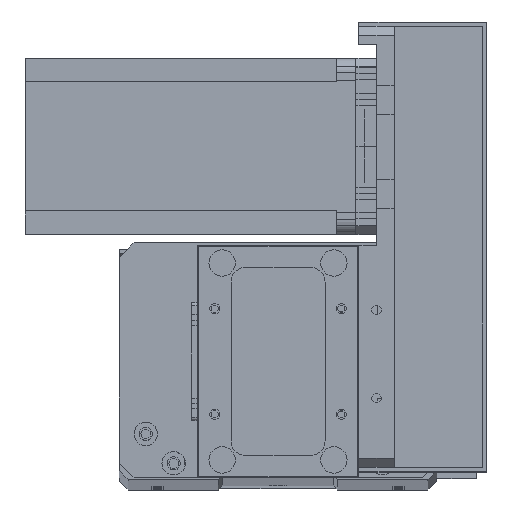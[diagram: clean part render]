
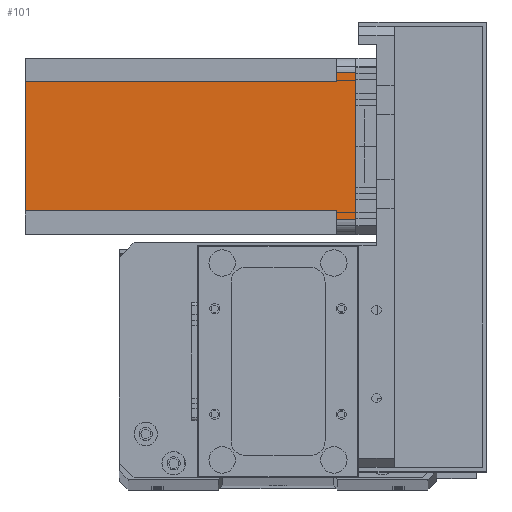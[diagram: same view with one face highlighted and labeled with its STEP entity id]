
A CAD part, top view. The second image highlights one B-rep face of the part: STEP entity #101.
In plain terms, the highlighted planar face has unit normal (0, 0, 1) as drawn and (0, 1, 0) by its records, which use the part's own axes.
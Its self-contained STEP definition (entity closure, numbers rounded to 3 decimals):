
#101 = ADVANCED_FACE ( 'NONE', ( #16644 ), #8723, .T. ) ;
#257 = VERTEX_POINT ( 'NONE', #24468 ) ;
#293 = ORIENTED_EDGE ( 'NONE', *, *, #4188, .F. ) ;
#918 = VECTOR ( 'NONE', #24383, 1000. ) ;
#1656 = CARTESIAN_POINT ( 'NONE',  ( 0., 60., -112.5 ) ) ;
#3524 = EDGE_CURVE ( 'NONE', #5799, #23170, #32054, .T. ) ;
#3570 = VERTEX_POINT ( 'NONE', #16409 ) ;
#3674 = DIRECTION ( 'NONE',  ( 1., 0., 0. ) ) ;
#4188 = EDGE_CURVE ( 'NONE', #3570, #23170, #16889, .T. ) ;
#4475 = CARTESIAN_POINT ( 'NONE',  ( 8., 60., -6.5 ) ) ;
#5799 = VERTEX_POINT ( 'NONE', #8125 ) ;
#5938 = DIRECTION ( 'NONE',  ( -1., 0., 0. ) ) ;
#5941 = EDGE_CURVE ( 'NONE', #23456, #24571, #6070, .T. ) ;
#6070 = LINE ( 'NONE', #29478, #918 ) ;
#7852 = DIRECTION ( 'NONE',  ( 0., 0., 1. ) ) ;
#8125 = CARTESIAN_POINT ( 'NONE',  ( 52., 60., -112.5 ) ) ;
#8376 = CARTESIAN_POINT ( 'NONE',  ( 5., 60., -112.5 ) ) ;
#8390 = EDGE_CURVE ( 'NONE', #23456, #30242, #18030, .T. ) ;
#8723 = PLANE ( 'NONE',  #14846 ) ;
#8841 = VECTOR ( 'NONE', #3674, 1000. ) ;
#9672 = ORIENTED_EDGE ( 'NONE', *, *, #3524, .T. ) ;
#11416 = EDGE_CURVE ( 'NONE', #32842, #30242, #31064, .T. ) ;
#12344 = ORIENTED_EDGE ( 'NONE', *, *, #8390, .F. ) ;
#12718 = CARTESIAN_POINT ( 'NONE',  ( 8., 60., -112.5 ) ) ;
#12740 = ORIENTED_EDGE ( 'NONE', *, *, #11416, .T. ) ;
#13215 = LINE ( 'NONE', #4475, #26756 ) ;
#13791 = CARTESIAN_POINT ( 'NONE',  ( 52., 60., -6.5 ) ) ;
#14783 = EDGE_CURVE ( 'NONE', #5799, #257, #20982, .T. ) ;
#14846 = AXIS2_PLACEMENT_3D ( 'NONE', #1656, #25345, #31800 ) ;
#15022 = VECTOR ( 'NONE', #7852, 1000. ) ;
#15320 = VECTOR ( 'NONE', #16269, 1000. ) ;
#15547 = ORIENTED_EDGE ( 'NONE', *, *, #25662, .T. ) ;
#15646 = LINE ( 'NONE', #13791, #8841 ) ;
#15665 = VECTOR ( 'NONE', #5938, 1000. ) ;
#16269 = DIRECTION ( 'NONE',  ( 0., 0., -1. ) ) ;
#16409 = CARTESIAN_POINT ( 'NONE',  ( 8., 60., -6.5 ) ) ;
#16644 = FACE_OUTER_BOUND ( 'NONE', #30695, .T. ) ;
#16889 = LINE ( 'NONE', #21267, #15320 ) ;
#18030 = LINE ( 'NONE', #23747, #15665 ) ;
#18127 = ORIENTED_EDGE ( 'NONE', *, *, #5941, .T. ) ;
#18306 = VECTOR ( 'NONE', #23624, 1000. ) ;
#19012 = CARTESIAN_POINT ( 'NONE',  ( 5., 60., -6.5 ) ) ;
#19784 = CARTESIAN_POINT ( 'NONE',  ( 55., 60., -6.5 ) ) ;
#20395 = CARTESIAN_POINT ( 'NONE',  ( 55., 60., 0. ) ) ;
#20982 = LINE ( 'NONE', #23122, #15022 ) ;
#21267 = CARTESIAN_POINT ( 'NONE',  ( 8., 60., -112.5 ) ) ;
#21589 = CARTESIAN_POINT ( 'NONE',  ( 5., 60., 0. ) ) ;
#21617 = ORIENTED_EDGE ( 'NONE', *, *, #24322, .F. ) ;
#22286 = DIRECTION ( 'NONE',  ( -1., 0., 0. ) ) ;
#23122 = CARTESIAN_POINT ( 'NONE',  ( 52., 60., -112.5 ) ) ;
#23170 = VERTEX_POINT ( 'NONE', #12718 ) ;
#23456 = VERTEX_POINT ( 'NONE', #20395 ) ;
#23624 = DIRECTION ( 'NONE',  ( 0., 0., 1. ) ) ;
#23747 = CARTESIAN_POINT ( 'NONE',  ( 0., 60., 0. ) ) ;
#24322 = EDGE_CURVE ( 'NONE', #257, #24571, #15646, .T. ) ;
#24383 = DIRECTION ( 'NONE',  ( 0., 0., -1. ) ) ;
#24468 = CARTESIAN_POINT ( 'NONE',  ( 52., 60., -6.5 ) ) ;
#24571 = VERTEX_POINT ( 'NONE', #19784 ) ;
#25289 = VECTOR ( 'NONE', #26446, 1000. ) ;
#25345 = DIRECTION ( 'NONE',  ( 0., 1., 0. ) ) ;
#25662 = EDGE_CURVE ( 'NONE', #3570, #32842, #13215, .T. ) ;
#26446 = DIRECTION ( 'NONE',  ( -1., 0., 0. ) ) ;
#26756 = VECTOR ( 'NONE', #22286, 1000. ) ;
#28216 = ORIENTED_EDGE ( 'NONE', *, *, #14783, .F. ) ;
#29478 = CARTESIAN_POINT ( 'NONE',  ( 55., 60., -112.5 ) ) ;
#30242 = VERTEX_POINT ( 'NONE', #21589 ) ;
#30695 = EDGE_LOOP ( 'NONE', ( #12344, #18127, #21617, #28216, #9672, #293, #15547, #12740 ) ) ;
#31064 = LINE ( 'NONE', #8376, #18306 ) ;
#31439 = CARTESIAN_POINT ( 'NONE',  ( 0., 60., -112.5 ) ) ;
#31800 = DIRECTION ( 'NONE',  ( 0., 0., 1. ) ) ;
#32054 = LINE ( 'NONE', #31439, #25289 ) ;
#32842 = VERTEX_POINT ( 'NONE', #19012 ) ;
